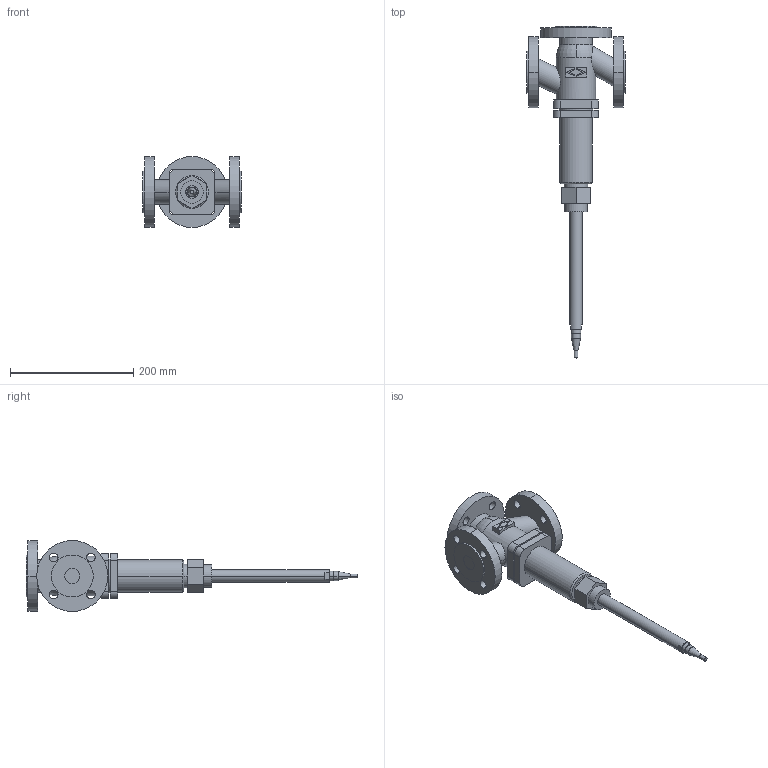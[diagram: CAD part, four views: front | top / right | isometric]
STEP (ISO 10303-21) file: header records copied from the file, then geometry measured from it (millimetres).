
FILE_DESCRIPTION( ( '' ), '1' );
FILE_NAME( 'F:/DE-SHS/TB/OR/04-Sonstiges/daten/files_3d/773-Mischventil/773-Mischventil_PN25/c000006170.stp', '2016-04-11T09:09:57', ( '' ), ( '' ), ' ', ' ', ' ' );
FILE_SCHEMA( ( 'CONFIG_CONTROL_DESIGN' ) );
Length unit declared in the file: millimetre
Products named in the file (1): 1
Bounding box: 160 x 538.44 x 115 mm (x, y, z)
Volume: 1408139.3 mm3; surface area: 167988.2 mm2
Topology: 1 solids, 1 shells, 138 faces, 339 edges, 225 vertices
Faces by surface type: cylinder 72, plane 60, torus 4, cone 2
Entity records: 4477 total; most frequent: CARTESIAN_POINT 960, DIRECTION 773, ORIENTED_EDGE 678, EDGE_CURVE 339, AXIS2_PLACEMENT_3D 302, VERTEX_POINT 225, EDGE_LOOP 184, LINE 169
